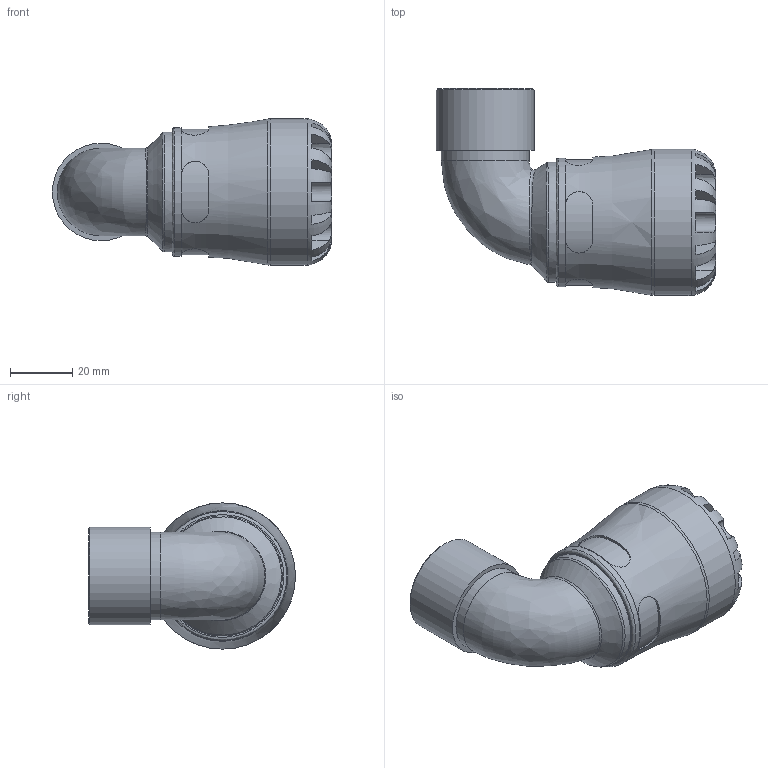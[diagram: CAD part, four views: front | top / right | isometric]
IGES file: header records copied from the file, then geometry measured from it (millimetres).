
Global section: file name: 101500025007_191500025007.ipt; native system: Autodesk Inventor 2015; preprocessor: unknown; author: KIM; date: 20170730.115213; units: millimetre
Bounding box: 89.68 x 66.5 x 47 mm (x, y, z)
Volume: 70013.3 mm3; surface area: 23607.9 mm2
Topology: 1 solids, 1 shells, 110 faces, 278 edges, 177 vertices
Faces by surface type: plane 62, revolution 26, cylinder 17, bspline 4, cone 1
Full cylindrical faces by diameter (mm): 28.217 x1, 31.352 x1, 38.54 x1, 41.36 x1, 47 x1
